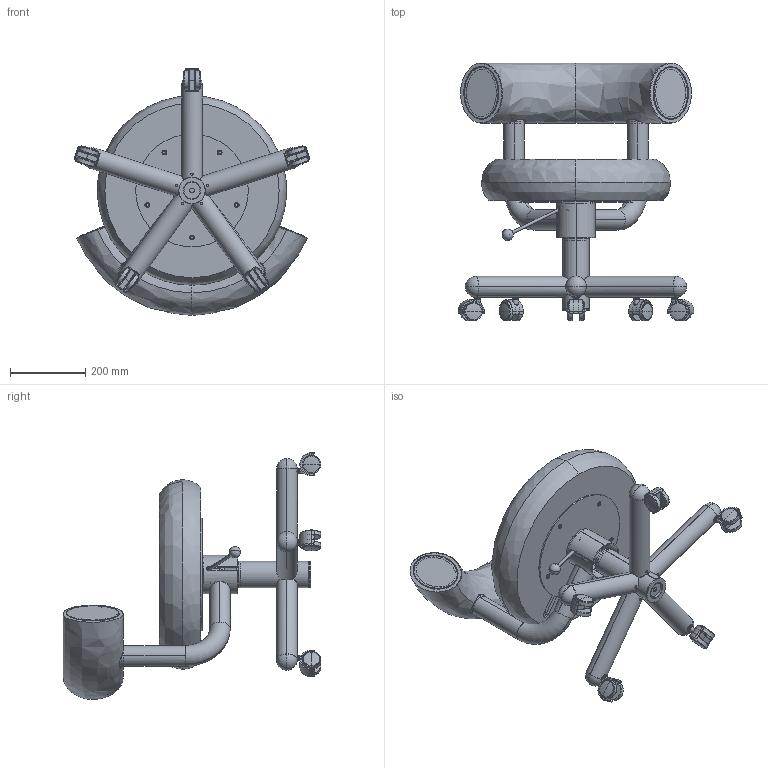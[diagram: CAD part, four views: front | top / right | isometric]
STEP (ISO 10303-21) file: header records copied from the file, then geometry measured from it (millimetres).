
FILE_DESCRIPTION (( 'STEP AP203' ), '1' );
FILE_NAME ('FAT - WORK CHAIR.STEP', '2024-11-11T14:40:24', ( '' ), ( '' ), 'SwSTEP 2.0', 'SolidWorks 2024', '' );
FILE_SCHEMA (( 'CONFIG_CONTROL_DESIGN' ));
Products named in the file (9): FIP - Seat Internal Obround Washer ; MirrorFIP - Seat Internal Obround Washer ; FIP - Backrest Cap Right; FAT - WORK CHAIR; Seat Foam-FIP; FIP - Backrest Cap Left; FAT WORK - Frame; FAT DINING - Backrest; Seat Assembly-FIP_Metal Legs
Assembly tree (8 placements, depth 3):
  FAT - WORK CHAIR
    FAT WORK - Frame
    FAT DINING - Backrest
    Seat Assembly-FIP_Metal Legs
      Seat Foam-FIP
      FIP - Seat Internal Obround Washer 
      MirrorFIP - Seat Internal Obround Washer 
    FIP - Backrest Cap Left
    FIP - Backrest Cap Right
Bounding box: 627.86 x 686.03 x 656.9 mm (x, y, z)
Volume: 31917424.4 mm3; surface area: 2509538 mm2
Topology: 94 solids, 94 shells, 1904 faces, 4835 edges, 3135 vertices
Faces by surface type: cylinder 908, plane 455, torus 210, cone 169, bspline 140, sphere 22
Entity records: 157821 total; most frequent: CARTESIAN_POINT 112723, ORIENTED_EDGE 9530, DIRECTION 8707, EDGE_CURVE 4765, AXIS2_PLACEMENT_3D 3554, VERTEX_POINT 3111, EDGE_LOOP 2144, ADVANCED_FACE 1904
